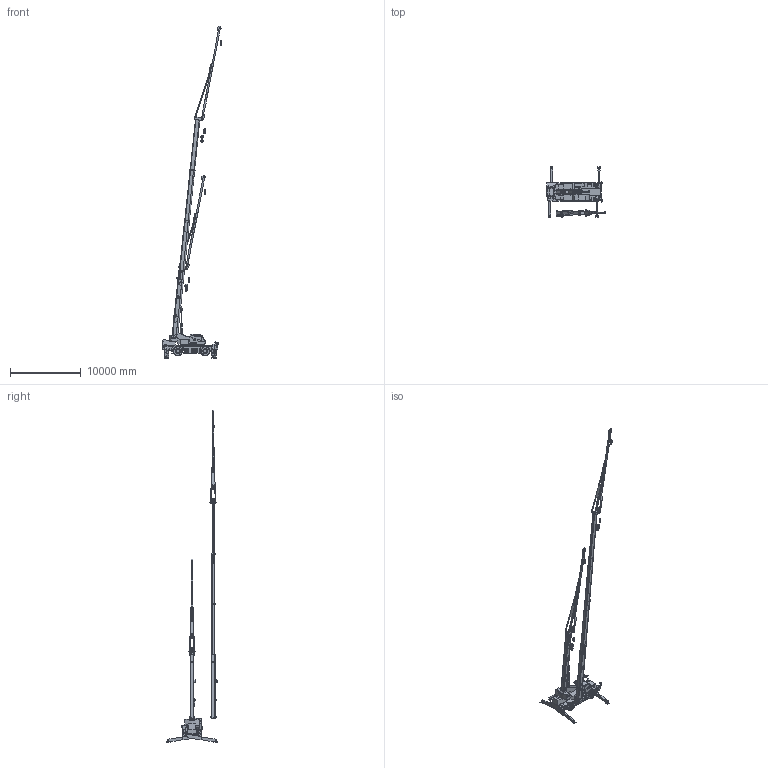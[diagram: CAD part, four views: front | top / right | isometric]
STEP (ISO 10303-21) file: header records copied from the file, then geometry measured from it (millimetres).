
FILE_DESCRIPTION(('CATIA V5 STEP'),'2;1');
FILE_NAME('C:\Users\96515\Desktop\ゼネコン\GR-250N-4_X\GR-250N-4_X_AP203iso.stp.stp','2018-10-30T01:18:44+00:00',('TDN'),('TADANO'),'CATIA Version 5-6 Release 2016 SP4 HF41','CATIA V5 STEP AP203','none');
FILE_SCHEMA(('CONFIG_CONTROL_DESIGN'));
Products named in the file (15): GR-250N-4_X; GR-250N-4_UPPER; GR-250N-4_Others; GR-250N-4_BOOM_CYLINDER; GR-250N-4_BOOM_Min_JIB; GR-250N-4_BOOM_Min; GR-250N-4_JIB; GR-250N-4_BOOMHOOK; GR-250N-4_BOOM_Max_JIB; GR-250N-4_BOOM_Max; GR-250N-4_LOWER_X; GR-250N-4_OUTRIGGER_FRONT_RIGHT_X; GR-250N-4_OUTRIGGER_FRONT_LEFT_X; GR-250N-4_OUTRIGGER_REAR_RIGHT_X; GR-250N-4_OUTRIGGER_REAR_LEFT_X
Assembly tree (57 placements, depth 5):
  GR-250N-4_X
    GR-250N-4_UPPER
      GR-250N-4_Others
        #73
        #56239
        GR-250N-4_BOOM_CYLINDER
          #80489
          #81009
      GR-250N-4_BOOM_Min_JIB
        GR-250N-4_BOOM_Min
          #81509
          #97871
          #98720
          #99569
          #101781
        GR-250N-4_JIB
          #102286
          #103575
          #104635
          #104818
        GR-250N-4_BOOMHOOK
          #105707
          #111128
        #111467  x2
      GR-250N-4_BOOM_Max_JIB
        GR-250N-4_BOOM_Max
          #81509
          #97871
          #98720
          #99569
          #101781
        GR-250N-4_JIB
          #102286
          #103575
          #104635
          #104818
        GR-250N-4_BOOMHOOK
          #105707
          #111128
        #111467  x2
    GR-250N-4_LOWER_X
      #115621
      #120493
      #122995
      #124764
      #130864
      GR-250N-4_OUTRIGGER_FRONT_RIGHT_X
        #133239
        #133959
        #134599
      GR-250N-4_OUTRIGGER_FRONT_LEFT_X
        #133239
        #135410
        #136050
      GR-250N-4_OUTRIGGER_REAR_RIGHT_X
        #133239
        #133959
        #134599
      GR-250N-4_OUTRIGGER_REAR_LEFT_X
        #133239
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Bounding box: 8346.83 x 7180.09 x 46828.77 mm (x, y, z)
Volume: 24953650662.8 mm3; surface area: 568209786.9 mm2
Topology: 165 solids, 169 shells, 4415 faces, 11396 edges, 7482 vertices
Faces by surface type: plane 2748, cylinder 779, extrusion 704, torus 126, cone 24, bspline 20, sphere 14
Entity records: 136865 total; most frequent: CARTESIAN_POINT 68949, ORIENTED_EDGE 15326, DIRECTION 10439, EDGE_CURVE 7663, VECTOR 5745, LINE 5185, VERTEX_POINT 5052, EDGE_LOOP 3219
